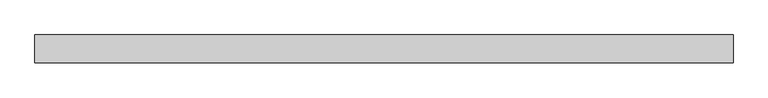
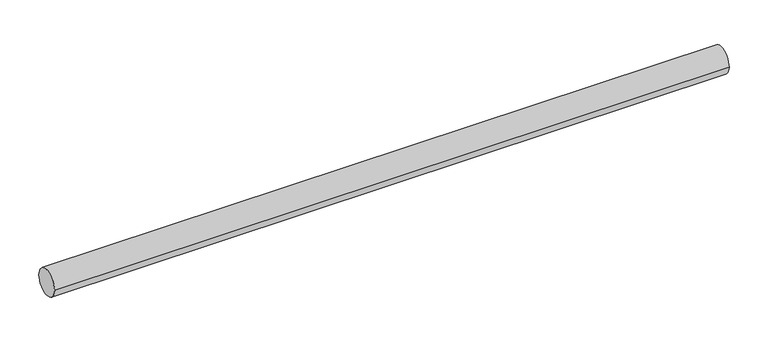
"""IFC4 building model written with IfcOpenShell, lengths in millimetres: railing geometry, Corrimão em aço."""

from ifc_helpers import new_model, si_unit, point, frame, frame_2d, origin, place, context, project, spatial, circle_curve, trimmed, segment, composite_curve, outline, extrude, source, transform, mapped, element, save


def railing_f09d9f44(model_context):
    return source(origin(), model_context, "Body", "SweptSolid", [
        extrude(outline(composite_curve([segment(trimmed(circle_curve(frame_2d((-10038.9740676, 880.0)), 20.0), [point((-10058.9740676, 880.0))], [point((-10018.9740676, 880.0))], False, "CARTESIAN"), True, "CONTINUOUS"), segment(trimmed(circle_curve(frame_2d((-10038.9740676, 880.0)), 20.0), [point((-10018.9740676, 880.0))], [point((-10058.9740676, 880.0))], False, "CARTESIAN"), True, "CONTINUOUS")], self_intersect=False)), frame((1227.6165906, 0.0, 0.0), z_axis=(1.0, 0.0, 0.0), x_axis=(0.0, 1.0, 0.0)), (0.0, 0.0, 1.0), 1000.0),
    ])


if __name__ == "__main__":
    model = new_model("IFC4")
    model_context = context("Model", 3, world=origin())
    ifc_project = project(units=[si_unit("LENGTHUNIT", "METRE", prefix="MILLI")], contexts=[model_context])
    site = spatial("IfcSite", under=ifc_project)
    building = spatial("IfcBuilding", under=site)
    placement = place(None, origin())
    railing_shape = railing_f09d9f44(model_context)
    element("IfcRailing", 1, ObjectType="Corrimão em aço", at=placement, inside=building, context=model_context, shape_type="MappedRepresentation", body=[
        mapped(railing_shape, transform((0.0, 0.0, 0.0), x_axis=(1.0, 0.0, 0.0), y_axis=(0.0, 1.0, 0.0), z_axis=(0.0, 0.0, 1.0))),
    ])
    save(model, "model.ifc")
